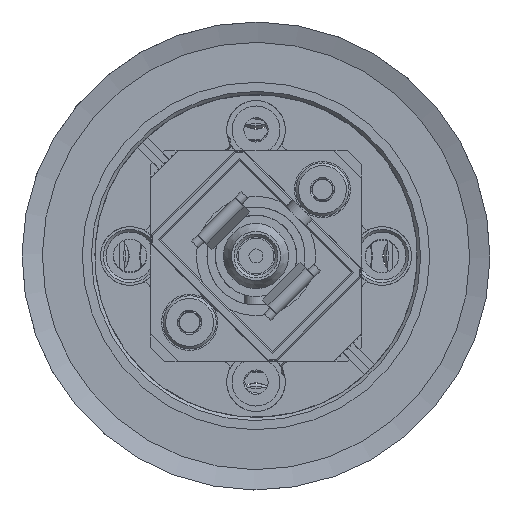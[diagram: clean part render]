
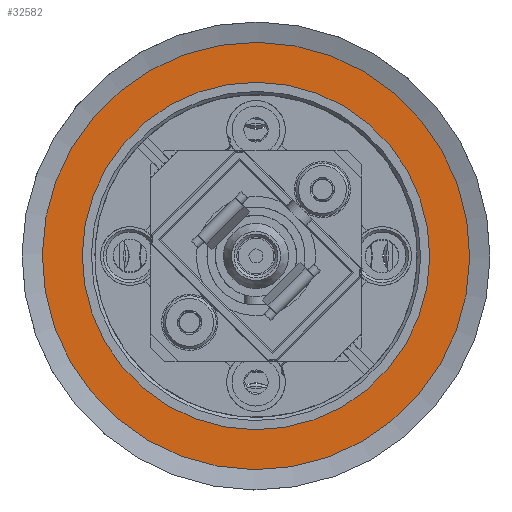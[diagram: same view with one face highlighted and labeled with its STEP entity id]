
A CAD part, left-side view. The second image highlights one B-rep face of the part: STEP entity #32582.
In plain terms, the highlighted planar face has unit normal (-1, 0, 0).
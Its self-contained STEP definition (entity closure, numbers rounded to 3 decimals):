
#1446 = FACE_OUTER_BOUND ( 'NONE', #44601, .T. ) ;
#2272 = CARTESIAN_POINT ( 'NONE',  ( -142.739, -4.705, 11.805 ) ) ;
#5012 = PLANE ( 'NONE',  #12467 ) ;
#8590 = DIRECTION ( 'NONE',  ( 0., 0.009, -1. ) ) ;
#12315 = CARTESIAN_POINT ( 'NONE',  ( -142.739, -4.597, -0.595 ) ) ;
#12467 = AXIS2_PLACEMENT_3D ( 'NONE', #41669, #44561, #8590 ) ;
#14255 = DIRECTION ( 'NONE',  ( 0., 0.009, -1. ) ) ;
#15908 = VERTEX_POINT ( 'NONE', #12315 ) ;
#16270 = VERTEX_POINT ( 'NONE', #34328 ) ;
#17341 = CIRCLE ( 'NONE', #43982, 12.4 ) ;
#19802 = ORIENTED_EDGE ( 'NONE', *, *, #44341, .F. ) ;
#21471 = CIRCLE ( 'NONE', #39721, 15.25 ) ;
#24981 = DIRECTION ( 'NONE',  ( -1., 0., 0. ) ) ;
#25426 = EDGE_CURVE ( 'NONE', #15908, #15908, #17341, .T. ) ;
#32582 = ADVANCED_FACE ( 'NONE', ( #40979, #1446 ), #5012, .F. ) ;
#34328 = CARTESIAN_POINT ( 'NONE',  ( -142.739, -4.838, 27.054 ) ) ;
#39721 = AXIS2_PLACEMENT_3D ( 'NONE', #2272, #41350, #41810 ) ;
#40979 = FACE_BOUND ( 'NONE', #42356, .T. ) ;
#41350 = DIRECTION ( 'NONE',  ( 1., 0., 0. ) ) ;
#41486 = ORIENTED_EDGE ( 'NONE', *, *, #25426, .F. ) ;
#41669 = CARTESIAN_POINT ( 'NONE',  ( -142.739, -4.705, 11.805 ) ) ;
#41810 = DIRECTION ( 'NONE',  ( 0., -0.009, 1. ) ) ;
#42356 = EDGE_LOOP ( 'NONE', ( #41486 ) ) ;
#43557 = CARTESIAN_POINT ( 'NONE',  ( -142.739, -4.705, 11.805 ) ) ;
#43982 = AXIS2_PLACEMENT_3D ( 'NONE', #43557, #24981, #14255 ) ;
#44341 = EDGE_CURVE ( 'NONE', #16270, #16270, #21471, .T. ) ;
#44561 = DIRECTION ( 'NONE',  ( 1., 0., 0. ) ) ;
#44601 = EDGE_LOOP ( 'NONE', ( #19802 ) ) ;
